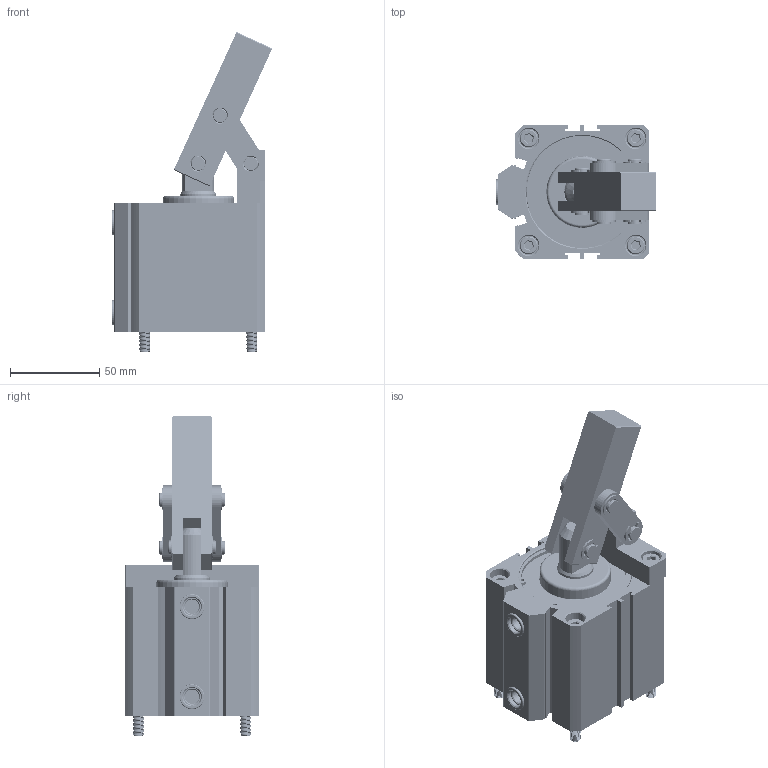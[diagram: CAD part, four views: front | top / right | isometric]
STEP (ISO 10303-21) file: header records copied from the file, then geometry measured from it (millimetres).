
FILE_DESCRIPTION(/* description */ ('STEP AP203'),/* implementation_level */ '2;1');
FILE_NAME(/* name */ 'E:\SERWER_ZAPAS\MODELE brakujace\PNEUMATIC\CALC(STEP)\CALC-63\CALC-63_OTWARTY.stp',/* time_stamp */ '2019-02-06T16:48:37+01:00',/* author */ ('Admin'),/* organization */ ('Î¢ÈíÖÐ¹ú'),/* preprocessor_version */ 'ST-DEVELOPER v17.2',/* originating_system */ 'Autodesk Inventor 2019',/* authorisation */ '');
FILE_SCHEMA (('AUTOMOTIVE_DESIGN { 1 0 10303 214 3 1 1 }'));
Products named in the file (16): CALC-63_OTWARTY; Ç°¸Ç_; 63³¤; ×ªÔØ×Ô; 63001bengti ; ºó¸Ç11; 63»î¸ËÎÒ; 4542; ¶Ì; 11163; 1116302; ¸´¼þ 63; ¿¨¿¨¿¨; 63Ñ¹±Û; 1x4¶ÂÍ·MS63; 63Á¬¸Ë
Assembly tree (26 placements, depth 2):
  CALC-63_OTWARTY
    4542  x2
    ¿¨¿¨¿¨  x6
    Ç°¸Ç_
    63³¤  x2
    ×ªÔØ×Ô
    11163  x2
    63001bengti 
    ºó¸Ç11
    63»î¸ËÎÒ
    63Á¬¸Ë  x2
    1x4¶ÂÍ·MS63  x2
    ¶Ì
    1116302  x2
    ¸´¼þ 63
    63Ñ¹±Û
Bounding box: 90.03 x 75 x 179.32 mm (x, y, z)
Volume: 347850.5 mm3; surface area: 133701.4 mm2
Topology: 26 solids, 26 shells, 867 faces, 2420 edges, 1668 vertices
Faces by surface type: cylinder 442, plane 304, cone 56, torus 42, bspline 23
Full cylindrical faces by diameter (mm): 2 x6, 6 x188, 6.8 x6, 7 x6, 8 x20, 10 x6, 11 x29, 14 x2, 16 x1, 18 x9, 20 x3, 22 x1, 28.2 x1, 35.5 x1, 35.678 x1, 36 x1, 40 x1, 44 x1, 45.178 x1, 45.5 x1, 46 x1, 47.178 x1, 50 x1, 55.5 x1, 58.858 x1, 59.4 x1, 59.8 x1, 63 x10, 65 x1
Entity records: 45691 total; most frequent: CARTESIAN_POINT 30837, ORIENTED_EDGE 3044, DIRECTION 2957, EDGE_CURVE 1522, AXIS2_PLACEMENT_3D 1158, VERTEX_POINT 1062, LINE 641, VECTOR 641
